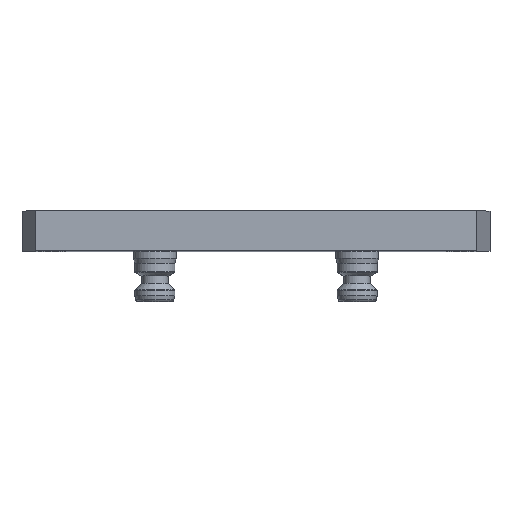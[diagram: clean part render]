
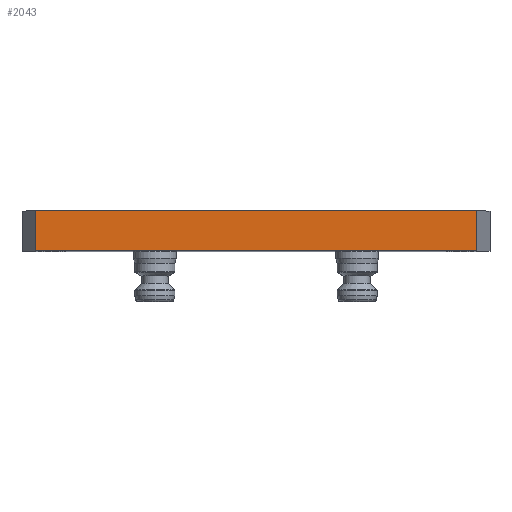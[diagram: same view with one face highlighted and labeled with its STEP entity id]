
A CAD part, top view. The second image highlights one B-rep face of the part: STEP entity #2043.
In plain terms, the highlighted planar face has unit normal (0, 0, 1).
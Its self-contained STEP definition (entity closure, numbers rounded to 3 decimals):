
#138 = EDGE_CURVE ( 'NONE', #3567, #274, #1253, .T. ) ;
#259 = VERTEX_POINT ( 'NONE', #2570 ) ;
#274 = VERTEX_POINT ( 'NONE', #1407 ) ;
#276 = CARTESIAN_POINT ( 'NONE',  ( -104.775, 0., 169. ) ) ;
#347 = VECTOR ( 'NONE', #982, 1000. ) ;
#413 = VECTOR ( 'NONE', #1867, 1000. ) ;
#551 = DIRECTION ( 'NONE',  ( 0., 1., 0. ) ) ;
#580 = CARTESIAN_POINT ( 'NONE',  ( -104.775, 0., 169. ) ) ;
#621 = LINE ( 'NONE', #2509, #2077 ) ;
#846 = CARTESIAN_POINT ( 'NONE',  ( 104.775, 0., 169. ) ) ;
#908 = EDGE_LOOP ( 'NONE', ( #3102, #3411, #2259, #1180 ) ) ;
#982 = DIRECTION ( 'NONE',  ( 0., 1., 0. ) ) ;
#987 = EDGE_CURVE ( 'NONE', #1236, #259, #1908, .T. ) ;
#1155 = DIRECTION ( 'NONE',  ( 1., 0., 0. ) ) ;
#1180 = ORIENTED_EDGE ( 'NONE', *, *, #138, .T. ) ;
#1236 = VERTEX_POINT ( 'NONE', #276 ) ;
#1240 = EDGE_CURVE ( 'NONE', #1236, #3567, #1384, .T. ) ;
#1253 = LINE ( 'NONE', #2117, #347 ) ;
#1256 = CARTESIAN_POINT ( 'NONE',  ( -111.125, 19.05, 169. ) ) ;
#1384 = LINE ( 'NONE', #3278, #413 ) ;
#1407 = CARTESIAN_POINT ( 'NONE',  ( 104.775, 19.05, 169. ) ) ;
#1587 = EDGE_CURVE ( 'NONE', #259, #274, #621, .T. ) ;
#1840 = AXIS2_PLACEMENT_3D ( 'NONE', #1256, #2359, #3476 ) ;
#1867 = DIRECTION ( 'NONE',  ( 1., 0., 0. ) ) ;
#1908 = LINE ( 'NONE', #580, #3543 ) ;
#2043 = ADVANCED_FACE ( 'NONE', ( #2979 ), #2670, .F. ) ;
#2077 = VECTOR ( 'NONE', #1155, 1000. ) ;
#2117 = CARTESIAN_POINT ( 'NONE',  ( 104.775, 0., 169. ) ) ;
#2259 = ORIENTED_EDGE ( 'NONE', *, *, #1240, .T. ) ;
#2359 = DIRECTION ( 'NONE',  ( 0., 0., -1. ) ) ;
#2509 = CARTESIAN_POINT ( 'NONE',  ( -111.125, 19.05, 169. ) ) ;
#2570 = CARTESIAN_POINT ( 'NONE',  ( -104.775, 19.05, 169. ) ) ;
#2670 = PLANE ( 'NONE',  #1840 ) ;
#2979 = FACE_OUTER_BOUND ( 'NONE', #908, .T. ) ;
#3102 = ORIENTED_EDGE ( 'NONE', *, *, #1587, .F. ) ;
#3278 = CARTESIAN_POINT ( 'NONE',  ( -111.125, 0., 169. ) ) ;
#3411 = ORIENTED_EDGE ( 'NONE', *, *, #987, .F. ) ;
#3476 = DIRECTION ( 'NONE',  ( -1., 0., 0. ) ) ;
#3543 = VECTOR ( 'NONE', #551, 1000. ) ;
#3567 = VERTEX_POINT ( 'NONE', #846 ) ;
